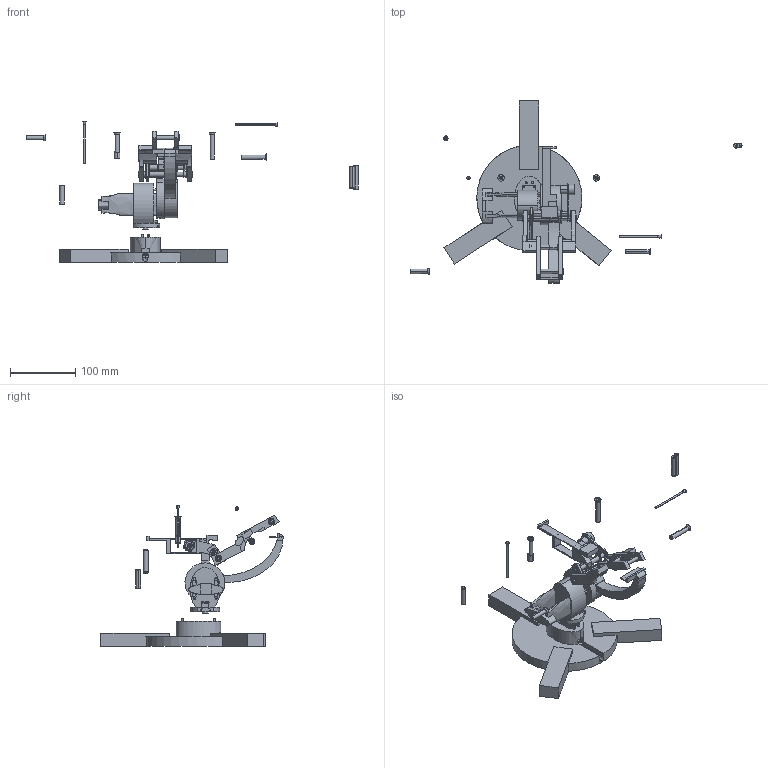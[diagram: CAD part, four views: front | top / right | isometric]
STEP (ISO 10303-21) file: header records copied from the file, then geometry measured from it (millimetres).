
FILE_DESCRIPTION(/* description */ (''),/* implementation_level */ '2;1');
FILE_NAME(/* name */ 'Bow_v3',/* time_stamp */ '2025-06-07T16:29:38+03:00',/* author */ (''),/* organization */ (''),/* preprocessor_version */ 'ST-DEVELOPER v19.2',/* originating_system */ 'Rhino 8.1',/* authorisation */ '');
FILE_SCHEMA (('CONFIG_CONTROL_DESIGN'));
Length unit declared in the file: millimetre
Products named in the file (1): Document
Bounding box: 510.56 x 280.27 x 216.56 mm (x, y, z)
Volume: 734947.9 mm3; surface area: 224372.5 mm2
Topology: 56 solids, 58 shells, 1794 faces, 4481 edges, 2824 vertices
Faces by surface type: plane 814, bspline 533, cylinder 447
Entity records: 61556 total; most frequent: CARTESIAN_POINT 26898, ORIENTED_EDGE 8704, EDGE_CURVE 4356, DIRECTION 3326, VERTEX_POINT 2749, AXIS2_PLACEMENT_3D 2275, B_SPLINE_CURVE_WITH_KNOTS 2232, EDGE_LOOP 1977
